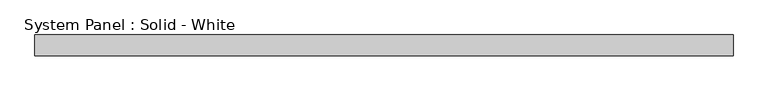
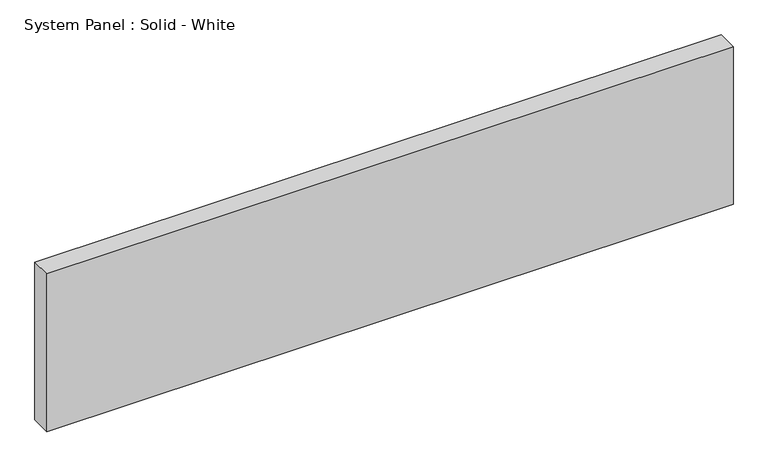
"""IFC4 building model written with IfcOpenShell, lengths in millimetres: plate geometry, System Panel : Solid - White."""

from ifc_helpers import new_model, si_unit, origin, origin_with_axes, place, context, project, spatial, polyline, outline, extrude, source, transform, mapped, element, save


def system_panel_solid_white_938f3899(model_context):
    return source(origin(), model_context, "Body", "SweptSolid", [
        extrude(outline(polyline([(1058.4447943, -19.05), (-1058.4447943, -19.05), (-1058.4447943, 44.45), (1058.4447943, 44.45), (1058.4447943, -19.05)])), origin_with_axes(), (0.0, 0.0, 1.0), 514.35),
    ])


if __name__ == "__main__":
    model = new_model("IFC4")
    model_context = context("Model", 3, world=origin())
    ifc_project = project(units=[si_unit("LENGTHUNIT", "METRE", prefix="MILLI")], contexts=[model_context])
    site = spatial("IfcSite", under=ifc_project)
    building = spatial("IfcBuilding", under=site)
    placement = place(None, origin())
    system_panel_solid_white_shape = system_panel_solid_white_938f3899(model_context)
    element("IfcPlate", 1, ObjectType="System Panel : Solid - White", at=placement, inside=building, context=model_context, shape_type="MappedRepresentation", body=[
        mapped(system_panel_solid_white_shape, transform((0.0, 0.0, 0.0), x_axis=(1.0, 0.0, 0.0), y_axis=(0.0, 1.0, 0.0), z_axis=(0.0, 0.0, 1.0))),
    ])
    save(model, "model.ifc")
